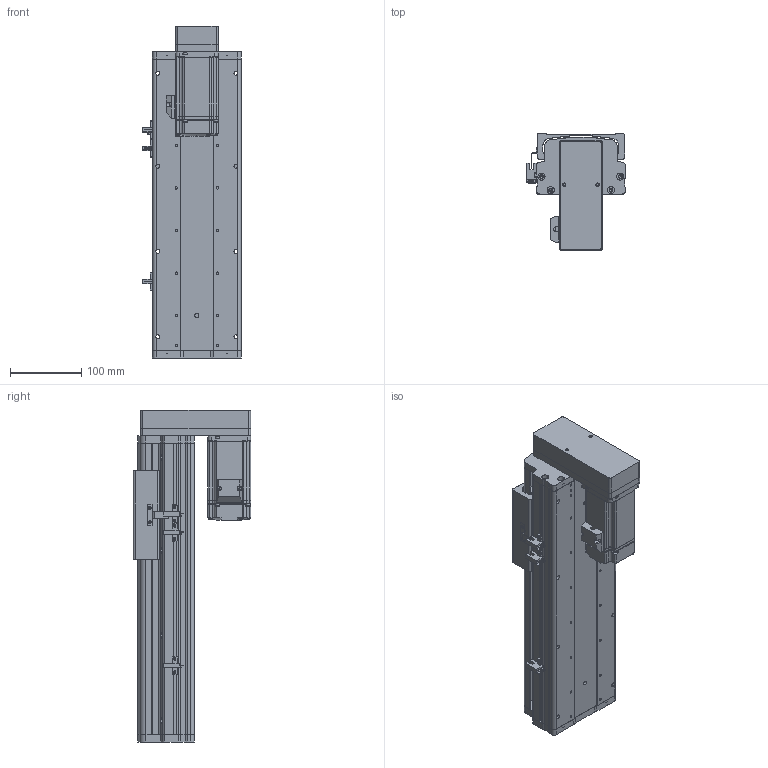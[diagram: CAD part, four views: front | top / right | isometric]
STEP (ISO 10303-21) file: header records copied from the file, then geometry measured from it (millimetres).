
FILE_DESCRIPTION (( 'STEP AP214' ), '1' );
FILE_NAME ('KSD125S-S200-MD-CM.STEP', '2017-10-21T07:56:58', ( '微软用户' ), ( '微软中国' ), 'SwSTEP 2.0', 'SolidWorks 2014', '' );
FILE_SCHEMA (( 'AUTOMOTIVE_DESIGN' ));
Length unit declared in the file: millimetre
Products named in the file (16): ヶ傷啣-125遵耀郪; KSD125-賑雄釱1; 125-帣傷啣1; KSD125S-S200-MD-CM; 125宽马达安装板连板上下折丝杆同步带; 125遵悵誘欶奻狟殏; HTPA30S3M150_A_H6_a佪裝蚚; HTPA30S3M150_A_H6_a萇儂蚚; KSD125S-200俴最佪裝滅鳥裔; KSD125S-200俴最佪裝菁啣; MHMD042G1CA_2_03; 拸萇儂釱滅袉菜; 拸萇儂釱滅袉菜-1; 覜茼え68遵圉猾敕; U倰嫖萇假蚾璃; U倰嫖萇EEㄜSX672
Assembly tree (19 placements, depth 2):
  KSD125S-S200-MD-CM
    125-帣傷啣1
    KSD125-賑雄釱1
    ヶ傷啣-125遵耀郪
    U倰嫖萇EEㄜSX672  x3
    U倰嫖萇假蚾璃  x3
    覜茼え68遵圉猾敕
    拸萇儂釱滅袉菜-1
    拸萇儂釱滅袉菜
    MHMD042G1CA_2_03
    KSD125S-200俴最佪裝菁啣
    KSD125S-200俴最佪裝滅鳥裔
    HTPA30S3M150_A_H6_a萇儂蚚
    HTPA30S3M150_A_H6_a佪裝蚚
    125遵悵誘欶奻狟殏
    125宽马达安装板连板上下折丝杆同步带
Bounding box: 138.7 x 165 x 467.5 mm (x, y, z)
Volume: 1815201.4 mm3; surface area: 650530.6 mm2
Topology: 18 solids, 21 shells, 2143 faces, 6207 edges, 4093 vertices
Faces by surface type: cylinder 1326, plane 676, cone 119, bspline 22
Entity records: 76415 total; most frequent: CARTESIAN_POINT 15337, DIRECTION 11745, ORIENTED_EDGE 10922, EDGE_CURVE 5539, AXIS2_PLACEMENT_3D 4527, VERTEX_POINT 3685, VECTOR 2691, LINE 2691
